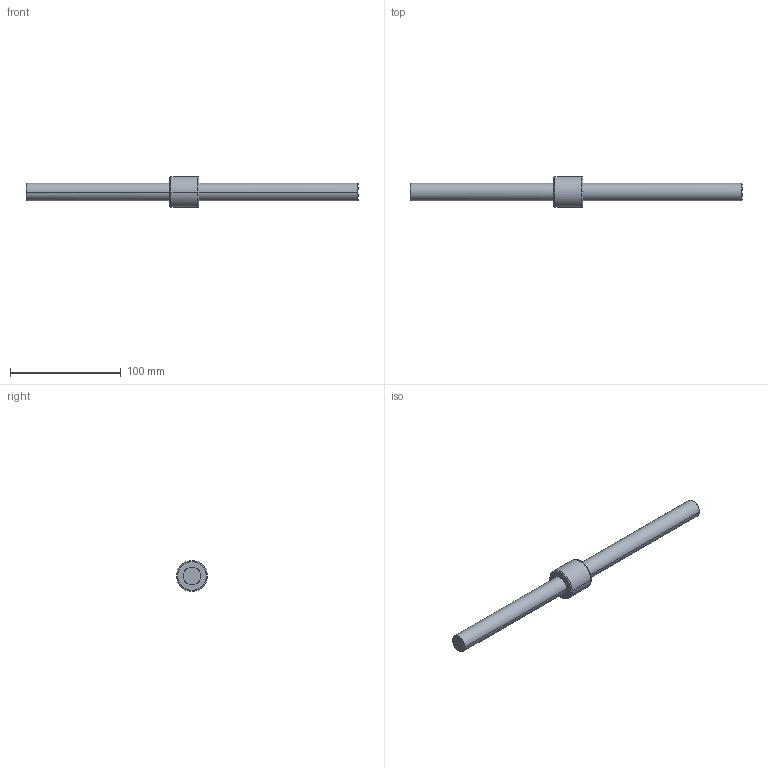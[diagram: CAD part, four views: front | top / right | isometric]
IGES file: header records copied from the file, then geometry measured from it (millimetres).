
Global section: file name: No Iges File Name specified; native system: AutoDesk Inventor R10; preprocessor: AutoDesk Inventor Iges Exporter R10; author: No Author specified; organization: No Organization specified; date: 20101224.154548; units: millimetre
Bounding box: 300 x 28 x 28 mm (x, y, z)
Surface area: 19828.7 mm2 (no closed solid volume)
Topology: 0 solids, 0 shells, 14 faces, 84 edges, 84 vertices
Faces by surface type: bspline 14
